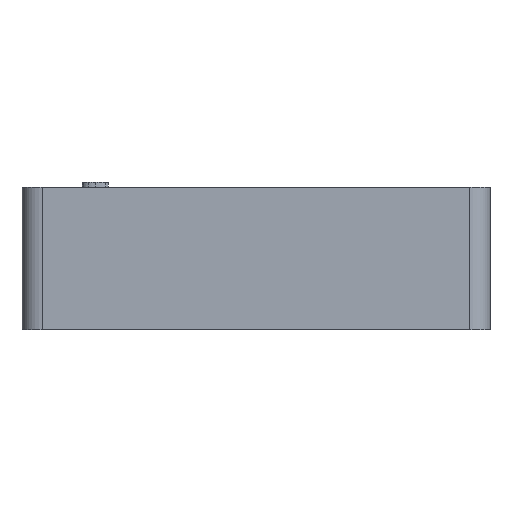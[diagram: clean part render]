
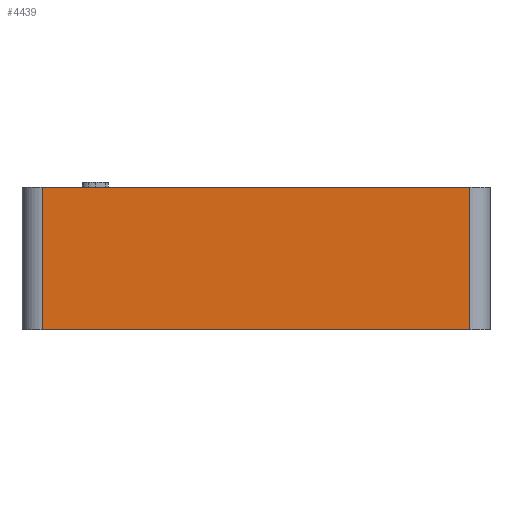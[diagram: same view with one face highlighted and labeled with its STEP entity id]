
A CAD part, left-side view. The second image highlights one B-rep face of the part: STEP entity #4439.
In plain terms, the highlighted planar face has unit normal (-1, 0, 0).
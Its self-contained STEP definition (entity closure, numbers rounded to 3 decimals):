
#62 = PLANE('',#63);
#63 = AXIS2_PLACEMENT_3D('',#64,#65,#66);
#64 = CARTESIAN_POINT('',(0.,0.,0.));
#65 = DIRECTION('',(0.,0.,1.));
#66 = DIRECTION('',(1.,0.,-0.));
#90 = CYLINDRICAL_SURFACE('',#91,2.);
#91 = AXIS2_PLACEMENT_3D('',#92,#93,#94);
#92 = CARTESIAN_POINT('',(-15.,-21.,0.));
#93 = DIRECTION('',(0.,0.,1.));
#94 = DIRECTION('',(0.,-1.,0.));
#118 = PLANE('',#119);
#119 = AXIS2_PLACEMENT_3D('',#120,#121,#122);
#120 = CARTESIAN_POINT('',(0.,0.,14.));
#121 = DIRECTION('',(0.,0.,1.));
#122 = DIRECTION('',(1.,0.,-0.));
#482 = VERTEX_POINT('',#483);
#483 = CARTESIAN_POINT('',(-17.,21.,0.));
#498 = CYLINDRICAL_SURFACE('',#499,2.);
#499 = AXIS2_PLACEMENT_3D('',#500,#501,#502);
#500 = CARTESIAN_POINT('',(-15.,21.,0.));
#501 = DIRECTION('',(0.,0.,1.));
#502 = DIRECTION('',(-0.,1.,0.));
#510 = EDGE_CURVE('',#482,#511,#513,.T.);
#511 = VERTEX_POINT('',#512);
#512 = CARTESIAN_POINT('',(-17.,-21.,0.));
#513 = SURFACE_CURVE('',#514,(#518,#525),.PCURVE_S1.);
#514 = LINE('',#515,#516);
#515 = CARTESIAN_POINT('',(-17.,23.,0.));
#516 = VECTOR('',#517,1.);
#517 = DIRECTION('',(0.,-1.,0.));
#518 = PCURVE('',#62,#519);
#519 = DEFINITIONAL_REPRESENTATION('',(#520),#524);
#520 = LINE('',#521,#522);
#521 = CARTESIAN_POINT('',(-17.,23.));
#522 = VECTOR('',#523,1.);
#523 = DIRECTION('',(0.,-1.));
#524 = ( GEOMETRIC_REPRESENTATION_CONTEXT(2) 
PARAMETRIC_REPRESENTATION_CONTEXT() REPRESENTATION_CONTEXT('2D SPACE',''
  ) );
#525 = PCURVE('',#526,#531);
#526 = PLANE('',#527);
#527 = AXIS2_PLACEMENT_3D('',#528,#529,#530);
#528 = CARTESIAN_POINT('',(-17.,23.,0.));
#529 = DIRECTION('',(1.,0.,-0.));
#530 = DIRECTION('',(0.,-1.,0.));
#531 = DEFINITIONAL_REPRESENTATION('',(#532),#536);
#532 = LINE('',#533,#534);
#533 = CARTESIAN_POINT('',(0.,0.));
#534 = VECTOR('',#535,1.);
#535 = DIRECTION('',(1.,0.));
#536 = ( GEOMETRIC_REPRESENTATION_CONTEXT(2) 
PARAMETRIC_REPRESENTATION_CONTEXT() REPRESENTATION_CONTEXT('2D SPACE',''
  ) );
#630 = EDGE_CURVE('',#511,#631,#633,.T.);
#631 = VERTEX_POINT('',#632);
#632 = CARTESIAN_POINT('',(-17.,-21.,14.));
#633 = SURFACE_CURVE('',#634,(#638,#645),.PCURVE_S1.);
#634 = LINE('',#635,#636);
#635 = CARTESIAN_POINT('',(-17.,-21.,0.));
#636 = VECTOR('',#637,1.);
#637 = DIRECTION('',(0.,0.,1.));
#638 = PCURVE('',#90,#639);
#639 = DEFINITIONAL_REPRESENTATION('',(#640),#644);
#640 = LINE('',#641,#642);
#641 = CARTESIAN_POINT('',(-1.571,0.));
#642 = VECTOR('',#643,1.);
#643 = DIRECTION('',(-0.,1.));
#644 = ( GEOMETRIC_REPRESENTATION_CONTEXT(2) 
PARAMETRIC_REPRESENTATION_CONTEXT() REPRESENTATION_CONTEXT('2D SPACE',''
  ) );
#645 = PCURVE('',#526,#646);
#646 = DEFINITIONAL_REPRESENTATION('',(#647),#651);
#647 = LINE('',#648,#649);
#648 = CARTESIAN_POINT('',(44.,0.));
#649 = VECTOR('',#650,1.);
#650 = DIRECTION('',(0.,-1.));
#651 = ( GEOMETRIC_REPRESENTATION_CONTEXT(2) 
PARAMETRIC_REPRESENTATION_CONTEXT() REPRESENTATION_CONTEXT('2D SPACE',''
  ) );
#779 = VERTEX_POINT('',#780);
#780 = CARTESIAN_POINT('',(-17.,21.,14.));
#802 = EDGE_CURVE('',#779,#631,#803,.T.);
#803 = SURFACE_CURVE('',#804,(#808,#815),.PCURVE_S1.);
#804 = LINE('',#805,#806);
#805 = CARTESIAN_POINT('',(-17.,23.,14.));
#806 = VECTOR('',#807,1.);
#807 = DIRECTION('',(0.,-1.,0.));
#808 = PCURVE('',#118,#809);
#809 = DEFINITIONAL_REPRESENTATION('',(#810),#814);
#810 = LINE('',#811,#812);
#811 = CARTESIAN_POINT('',(-17.,23.));
#812 = VECTOR('',#813,1.);
#813 = DIRECTION('',(0.,-1.));
#814 = ( GEOMETRIC_REPRESENTATION_CONTEXT(2) 
PARAMETRIC_REPRESENTATION_CONTEXT() REPRESENTATION_CONTEXT('2D SPACE',''
  ) );
#815 = PCURVE('',#526,#816);
#816 = DEFINITIONAL_REPRESENTATION('',(#817),#821);
#817 = LINE('',#818,#819);
#818 = CARTESIAN_POINT('',(0.,-14.));
#819 = VECTOR('',#820,1.);
#820 = DIRECTION('',(1.,0.));
#821 = ( GEOMETRIC_REPRESENTATION_CONTEXT(2) 
PARAMETRIC_REPRESENTATION_CONTEXT() REPRESENTATION_CONTEXT('2D SPACE',''
  ) );
#4439 = ADVANCED_FACE('',(#4440),#526,.F.);
#4440 = FACE_BOUND('',#4441,.F.);
#4441 = EDGE_LOOP('',(#4442,#4443,#4464,#4465));
#4442 = ORIENTED_EDGE('',*,*,#510,.F.);
#4443 = ORIENTED_EDGE('',*,*,#4444,.T.);
#4444 = EDGE_CURVE('',#482,#779,#4445,.T.);
#4445 = SURFACE_CURVE('',#4446,(#4450,#4457),.PCURVE_S1.);
#4446 = LINE('',#4447,#4448);
#4447 = CARTESIAN_POINT('',(-17.,21.,0.));
#4448 = VECTOR('',#4449,1.);
#4449 = DIRECTION('',(0.,0.,1.));
#4450 = PCURVE('',#526,#4451);
#4451 = DEFINITIONAL_REPRESENTATION('',(#4452),#4456);
#4452 = LINE('',#4453,#4454);
#4453 = CARTESIAN_POINT('',(2.,0.));
#4454 = VECTOR('',#4455,1.);
#4455 = DIRECTION('',(0.,-1.));
#4456 = ( GEOMETRIC_REPRESENTATION_CONTEXT(2) 
PARAMETRIC_REPRESENTATION_CONTEXT() REPRESENTATION_CONTEXT('2D SPACE',''
  ) );
#4457 = PCURVE('',#498,#4458);
#4458 = DEFINITIONAL_REPRESENTATION('',(#4459),#4463);
#4459 = LINE('',#4460,#4461);
#4460 = CARTESIAN_POINT('',(1.571,0.));
#4461 = VECTOR('',#4462,1.);
#4462 = DIRECTION('',(0.,1.));
#4463 = ( GEOMETRIC_REPRESENTATION_CONTEXT(2) 
PARAMETRIC_REPRESENTATION_CONTEXT() REPRESENTATION_CONTEXT('2D SPACE',''
  ) );
#4464 = ORIENTED_EDGE('',*,*,#802,.T.);
#4465 = ORIENTED_EDGE('',*,*,#630,.F.);
